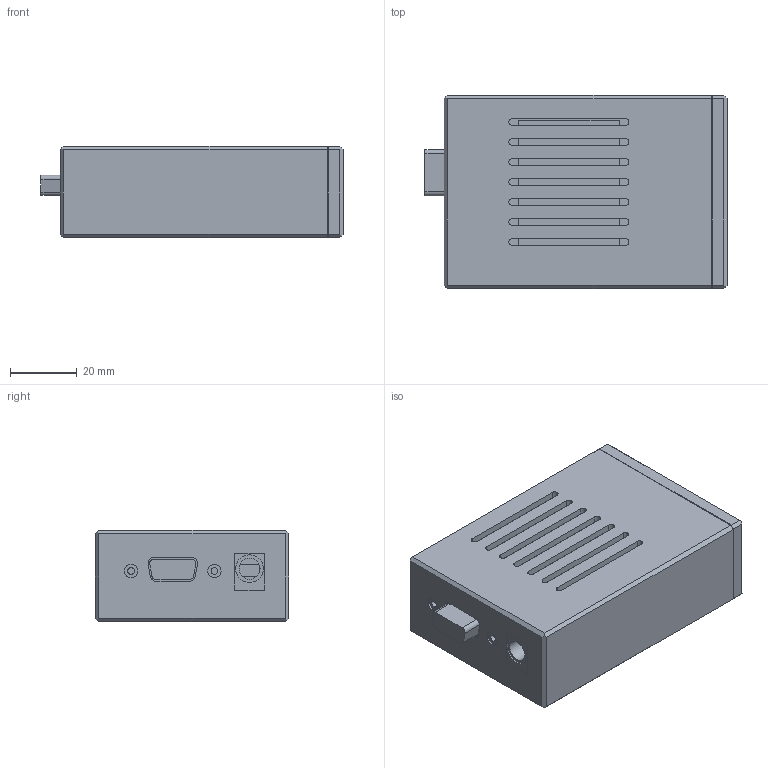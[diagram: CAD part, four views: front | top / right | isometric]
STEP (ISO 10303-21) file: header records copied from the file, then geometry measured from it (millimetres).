
FILE_DESCRIPTION(/* description */ (''),/* implementation_level */ '2;1');
FILE_NAME(/* name */ 'C:/Users/Luca/Desktop/Temp/Boitier PCB WiFi 2.0 v3.step',/* time_stamp */ '2020-09-25T20:14:54+02:00',/* author */ (''),/* organization */ (''),/* preprocessor_version */ 'ST-DEVELOPER v18.1',/* originating_system */ 'Autodesk Translation Framework v9.3.0.1241',/* authorisation */ '');
FILE_SCHEMA (('AUTOMOTIVE_DESIGN { 1 0 10303 214 3 1 1 }'));
Length unit declared in the file: millimetre
Products named in the file (2): Scatola PCB WiFi 2.0; PCB WiFi
Assembly tree (1 placements, depth 2):
  Scatola PCB WiFi 2.0
    PCB WiFi
Bounding box: 90.72 x 58 x 27.5 mm (x, y, z)
Volume: 54796.8 mm3; surface area: 50329.5 mm2
Topology: 7 solids, 7 shells, 281 faces, 717 edges, 474 vertices
Faces by surface type: plane 229, cylinder 52
Full cylindrical faces by diameter (mm): 1.8 x4, 2 x2, 2.2 x2, 2.3 x2, 2.5 x4, 3.9 x4, 4 x2, 5 x4, 6.3 x1, 7.1 x1, 8.3 x1
Entity records: 8626 total; most frequent: CARTESIAN_POINT 1475, ORIENTED_EDGE 1434, DIRECTION 1389, EDGE_CURVE 717, LINE 613, VECTOR 613, VERTEX_POINT 474, AXIS2_PLACEMENT_3D 388
